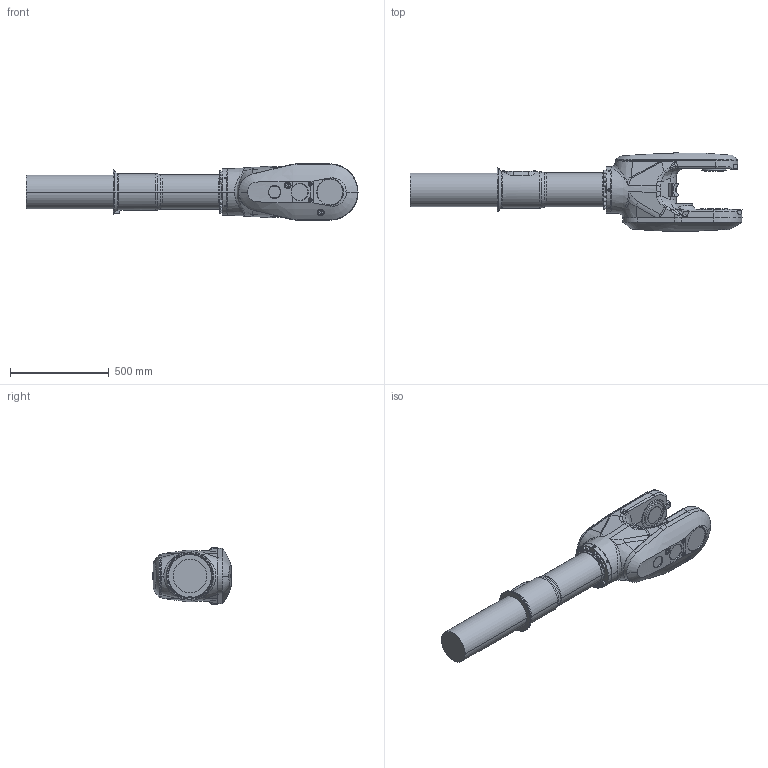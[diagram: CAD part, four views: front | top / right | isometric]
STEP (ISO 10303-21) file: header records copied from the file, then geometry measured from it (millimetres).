
FILE_DESCRIPTION (( 'STEP AP214' ), '1' );
FILE_NAME ('IRB6730-LID_220kg-290_OC_00_LINK04_CAD.step', '2026-05-26T09:11:33', ( '' ), ( '' ), 'SwSTEP 2.0', 'SolidWorks 2024', '' );
FILE_SCHEMA (( 'AUTOMOTIVE_DESIGN' ));
Length unit declared in the file: millimetre
Products named in the file (1): IRB6730-LID_220kg-290_OC_00_LINK04_CAD
Bounding box: 1677.5 x 396.47 x 284 mm (x, y, z)
Volume: 61716239.9 mm3; surface area: 1490909.3 mm2
Topology: 1 solids, 2 shells, 736 faces, 1825 edges, 1140 vertices
Faces by surface type: plane 312, cylinder 177, cone 124, bspline 90, torus 33
Entity records: 42363 total; most frequent: CARTESIAN_POINT 18016, ORIENTED_EDGE 3602, DIRECTION 3052, EDGE_CURVE 1801, VERTEX_POINT 1140, AXIS2_PLACEMENT_3D 1127, EDGE_LOOP 811, VECTOR 798
